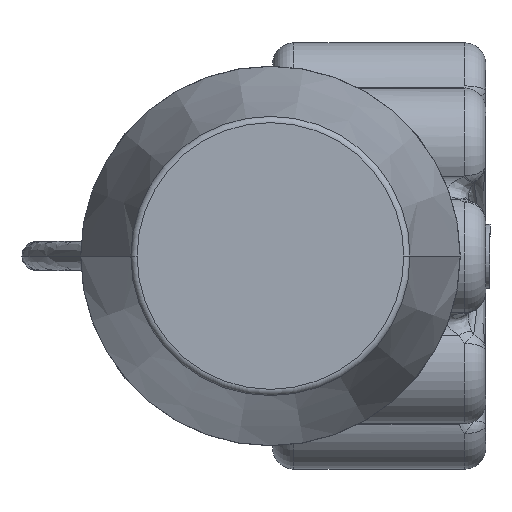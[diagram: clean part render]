
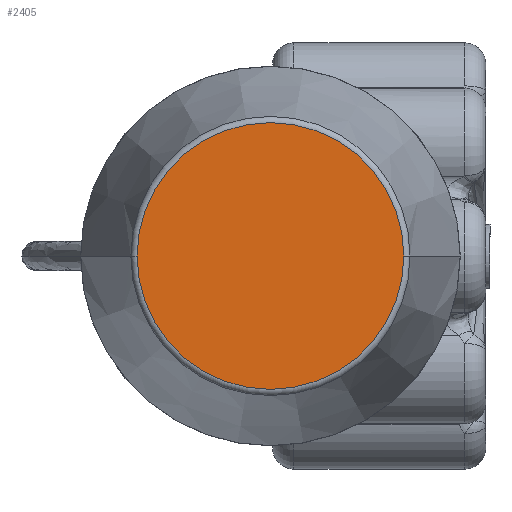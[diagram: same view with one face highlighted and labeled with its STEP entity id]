
A CAD part, front view. The second image highlights one B-rep face of the part: STEP entity #2405.
In plain terms, the highlighted planar face has unit normal (0, -1, 0).
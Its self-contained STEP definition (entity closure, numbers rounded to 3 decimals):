
#1112 = FACE_OUTER_BOUND ( 'NONE', #3729, .T. ) ;
#1528 = ORIENTED_EDGE ( 'NONE', *, *, #5659, .T. ) ;
#1804 = PLANE ( 'NONE',  #3165 ) ;
#2405 = ADVANCED_FACE ( 'NONE', ( #1112 ), #1804, .T. ) ;
#2511 = DIRECTION ( 'NONE',  ( 1., 0., 0. ) ) ;
#3165 = AXIS2_PLACEMENT_3D ( 'NONE', #7178, #5099, #2511 ) ;
#3729 = EDGE_LOOP ( 'NONE', ( #7809, #1528 ) ) ;
#4986 = DIRECTION ( 'NONE',  ( 0., -1., 0. ) ) ;
#5099 = DIRECTION ( 'NONE',  ( 0., -1., 0. ) ) ;
#5194 = DIRECTION ( 'NONE',  ( 1., 0., 0. ) ) ;
#5659 = EDGE_CURVE ( 'NONE', #8260, #5869, #7451, .T. ) ;
#5760 = DIRECTION ( 'NONE',  ( 0., -1., 0. ) ) ;
#5869 = VERTEX_POINT ( 'NONE', #8013 ) ;
#6420 = CARTESIAN_POINT ( 'NONE',  ( 0., 0., 0. ) ) ;
#6490 = AXIS2_PLACEMENT_3D ( 'NONE', #7034, #4986, #8339 ) ;
#6619 = AXIS2_PLACEMENT_3D ( 'NONE', #6420, #5760, #5194 ) ;
#7034 = CARTESIAN_POINT ( 'NONE',  ( 0., 0., 0. ) ) ;
#7178 = CARTESIAN_POINT ( 'NONE',  ( 0., 0., 0. ) ) ;
#7451 = CIRCLE ( 'NONE', #6490, 62.561 ) ;
#7627 = CIRCLE ( 'NONE', #6619, 62.561 ) ;
#7761 = EDGE_CURVE ( 'NONE', #5869, #8260, #7627, .T. ) ;
#7809 = ORIENTED_EDGE ( 'NONE', *, *, #7761, .T. ) ;
#8013 = CARTESIAN_POINT ( 'NONE',  ( 62.561, 0., 0. ) ) ;
#8214 = CARTESIAN_POINT ( 'NONE',  ( -62.561, 0., 0. ) ) ;
#8260 = VERTEX_POINT ( 'NONE', #8214 ) ;
#8339 = DIRECTION ( 'NONE',  ( 1., 0., 0. ) ) ;
